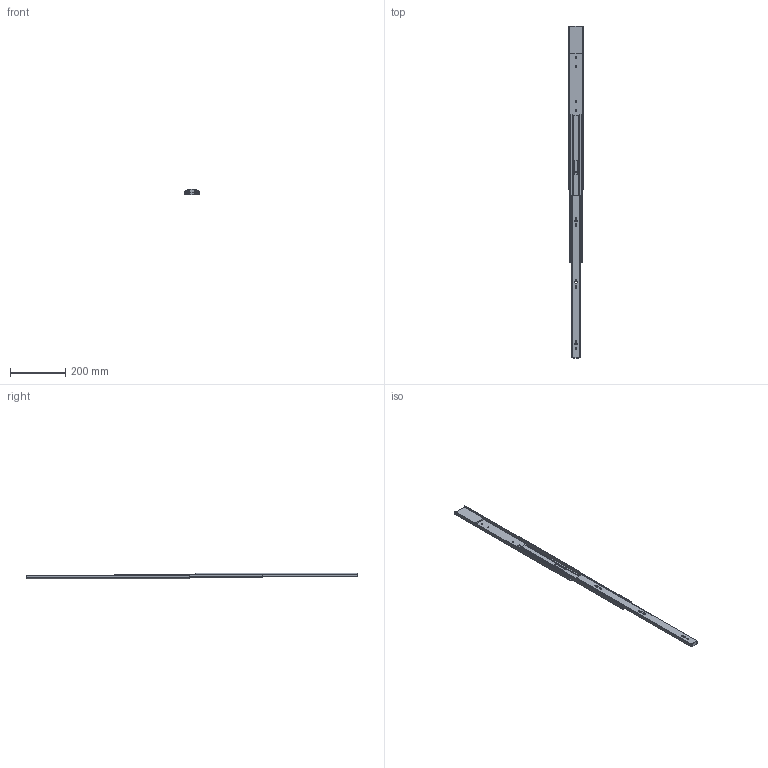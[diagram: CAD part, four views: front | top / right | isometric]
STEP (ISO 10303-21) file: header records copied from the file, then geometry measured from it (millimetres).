
FILE_DESCRIPTION((''),'2;1');
FILE_NAME('78A01_600_OPEN_ASM','2020-09-01T15:18:56',('T170334'),(''),'CREO PARAMETRIC BY PTC INC, 2018260','CREO PARAMETRIC BY PTC INC, 2018260','');
FILE_SCHEMA(('CONFIG_CONTROL_DESIGN'));
Length unit declared in the file: millimetre
Products named in the file (5): OUT_600; MID_600; IN_600; MECHANISM_O; 78A01_600_OPEN_ASM
Assembly tree (4 placements, depth 2):
  78A01_600_OPEN_ASM
    OUT_600
    MID_600
    IN_600
    MECHANISM_O
Bounding box: 53.32 x 1206.6 x 18.84 mm (x, y, z)
Volume: 226136.5 mm3; surface area: 233489.2 mm2
Topology: 4 solids, 4 shells, 162 faces, 458 edges, 304 vertices
Faces by surface type: cylinder 82, plane 80
Entity records: 5511 total; most frequent: CARTESIAN_POINT 973, DIRECTION 948, ORIENTED_EDGE 916, EDGE_CURVE 458, AXIS2_PLACEMENT_3D 327, VERTEX_POINT 304, VECTOR 294, LINE 294
